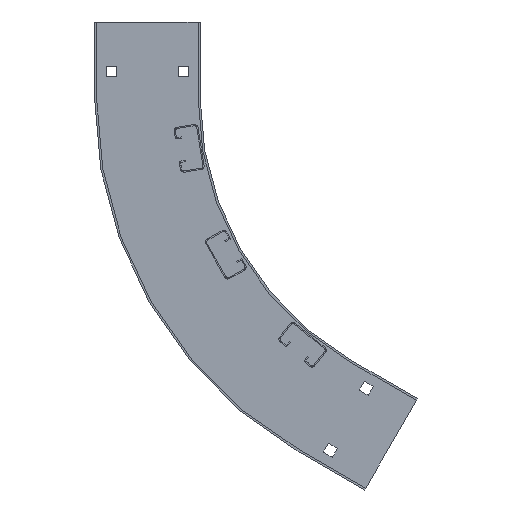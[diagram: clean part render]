
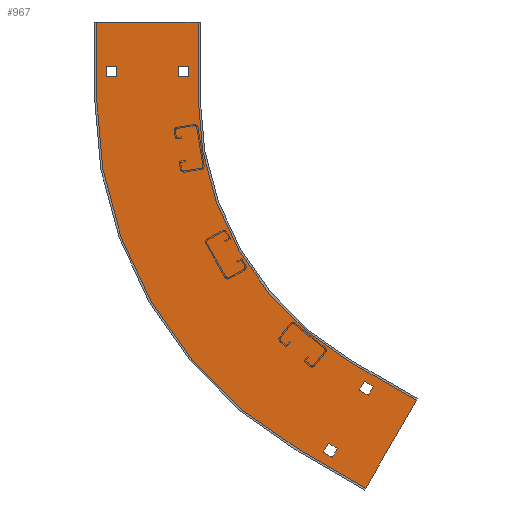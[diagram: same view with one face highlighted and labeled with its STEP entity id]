
A CAD part, left-side view. The second image highlights one B-rep face of the part: STEP entity #967.
In plain terms, the highlighted planar face has unit normal (-1, 0, 0) as drawn and (1, 0, 0) by its records, which use the part's own axes.
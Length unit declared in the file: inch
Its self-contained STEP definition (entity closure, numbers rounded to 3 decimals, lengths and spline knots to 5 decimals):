
#9=DIRECTION('',(0.,1.,0.));
#10=VECTOR('',#9,4.015);
#11=CARTESIAN_POINT('',(0.075,0.08,0.));
#12=LINE('',#11,#10);
#194=DIRECTION('',(0.,0.,1.));
#195=VECTOR('',#194,3.);
#196=CARTESIAN_POINT('',(0.075,4.095,0.));
#197=LINE('',#196,#195);
#198=DIRECTION('',(0.,0.,1.));
#199=VECTOR('',#198,3.);
#200=CARTESIAN_POINT('',(0.075,0.08,0.));
#201=LINE('',#200,#199);
#202=CARTESIAN_POINT('',(0.075,-12.,3.));
#203=DIRECTION('',(1.,0.,0.));
#204=DIRECTION('',(0.,1.,0.));
#205=AXIS2_PLACEMENT_3D('',#202,#203,#204);
#207=DIRECTION('',(0.,-0.866,0.5));
#208=VECTOR('',#207,3.);
#209=CARTESIAN_POINT('',(0.075,-5.96,13.46159));
#210=LINE('',#209,#208);
#211=DIRECTION('',(0.,0.,-1.));
#212=VECTOR('',#211,0.41);
#213=CARTESIAN_POINT('',(0.075,0.455,2.165));
#214=LINE('',#213,#212);
#215=DIRECTION('',(0.,1.,0.));
#216=VECTOR('',#215,0.41);
#217=CARTESIAN_POINT('',(0.075,0.455,1.755));
#218=LINE('',#217,#216);
#219=DIRECTION('',(0.,0.,1.));
#220=VECTOR('',#219,0.41);
#221=CARTESIAN_POINT('',(0.075,0.865,1.755));
#222=LINE('',#221,#220);
#223=DIRECTION('',(0.,-1.,0.));
#224=VECTOR('',#223,0.41);
#225=CARTESIAN_POINT('',(0.075,0.865,2.165));
#226=LINE('',#225,#224);
#227=DIRECTION('',(0.,0.,-1.));
#228=VECTOR('',#227,0.41);
#229=CARTESIAN_POINT('',(0.075,3.29,2.165));
#230=LINE('',#229,#228);
#231=DIRECTION('',(0.,1.,0.));
#232=VECTOR('',#231,0.41);
#233=CARTESIAN_POINT('',(0.075,3.29,1.755));
#234=LINE('',#233,#232);
#235=DIRECTION('',(0.,0.,1.));
#236=VECTOR('',#235,0.41);
#237=CARTESIAN_POINT('',(0.075,3.7,1.755));
#238=LINE('',#237,#236);
#239=DIRECTION('',(0.,-1.,0.));
#240=VECTOR('',#239,0.41);
#241=CARTESIAN_POINT('',(0.075,3.7,2.165));
#242=LINE('',#241,#240);
#243=DIRECTION('',(0.,0.866,-0.5));
#244=VECTOR('',#243,0.41);
#245=CARTESIAN_POINT('',(0.075,-6.8507,14.40885));
#246=LINE('',#245,#244);
#247=DIRECTION('',(0.,0.5,0.866));
#248=VECTOR('',#247,0.41);
#249=CARTESIAN_POINT('',(0.075,-6.49563,14.20385));
#250=LINE('',#249,#248);
#251=DIRECTION('',(0.,-0.866,0.5));
#252=VECTOR('',#251,0.41);
#253=CARTESIAN_POINT('',(0.075,-6.29063,14.55892));
#254=LINE('',#253,#252);
#255=DIRECTION('',(0.,-0.5,-0.866));
#256=VECTOR('',#255,0.41);
#257=CARTESIAN_POINT('',(0.075,-6.6457,14.76392));
#258=LINE('',#257,#256);
#259=DIRECTION('',(0.,0.866,-0.5));
#260=VECTOR('',#259,0.41);
#261=CARTESIAN_POINT('',(0.075,-5.4332,16.86403));
#262=LINE('',#261,#260);
#263=DIRECTION('',(0.,0.5,0.866));
#264=VECTOR('',#263,0.41);
#265=CARTESIAN_POINT('',(0.075,-5.07813,16.65903));
#266=LINE('',#265,#264);
#267=DIRECTION('',(0.,-0.866,0.5));
#268=VECTOR('',#267,0.41);
#269=CARTESIAN_POINT('',(0.075,-4.87313,17.0141));
#270=LINE('',#269,#268);
#271=DIRECTION('',(0.,-0.5,-0.866));
#272=VECTOR('',#271,0.41);
#273=CARTESIAN_POINT('',(0.075,-5.2282,17.2191));
#274=LINE('',#273,#272);
#336=DIRECTION('',(0.,0.5,0.866));
#337=VECTOR('',#336,4.015);
#338=CARTESIAN_POINT('',(0.075,-8.55808,14.96159));
#339=LINE('',#338,#337);
#416=DIRECTION('',(0.,-0.866,0.5));
#417=VECTOR('',#416,3.);
#418=CARTESIAN_POINT('',(0.075,-3.9525,16.93868));
#419=LINE('',#418,#417);
#424=CARTESIAN_POINT('',(0.075,-12.,3.));
#425=DIRECTION('',(1.,0.,0.));
#426=DIRECTION('',(0.,1.,0.));
#427=AXIS2_PLACEMENT_3D('',#424,#425,#426);
#497=CARTESIAN_POINT('',(0.075,0.08,0.));
#498=VERTEX_POINT('',#497);
#499=CARTESIAN_POINT('',(0.075,4.095,0.));
#500=VERTEX_POINT('',#499);
#518=CARTESIAN_POINT('',(0.075,0.08,3.));
#520=VERTEX_POINT('',#518);
#521=CARTESIAN_POINT('',(0.075,4.095,3.));
#523=VERTEX_POINT('',#521);
#542=CARTESIAN_POINT('',(0.075,-5.96,13.46159));
#544=VERTEX_POINT('',#542);
#545=CARTESIAN_POINT('',(0.075,-3.9525,16.93868));
#547=VERTEX_POINT('',#545);
#569=CARTESIAN_POINT('',(0.075,-8.55808,14.96159));
#570=VERTEX_POINT('',#569);
#571=CARTESIAN_POINT('',(0.075,-6.55058,18.43868));
#572=VERTEX_POINT('',#571);
#589=CARTESIAN_POINT('',(0.075,0.455,2.165));
#590=CARTESIAN_POINT('',(0.075,0.455,1.755));
#591=VERTEX_POINT('',#589);
#592=VERTEX_POINT('',#590);
#593=CARTESIAN_POINT('',(0.075,0.865,1.755));
#594=VERTEX_POINT('',#593);
#595=CARTESIAN_POINT('',(0.075,0.865,2.165));
#596=VERTEX_POINT('',#595);
#597=CARTESIAN_POINT('',(0.075,3.29,2.165));
#598=CARTESIAN_POINT('',(0.075,3.29,1.755));
#599=VERTEX_POINT('',#597);
#600=VERTEX_POINT('',#598);
#601=CARTESIAN_POINT('',(0.075,3.7,1.755));
#602=VERTEX_POINT('',#601);
#603=CARTESIAN_POINT('',(0.075,3.7,2.165));
#604=VERTEX_POINT('',#603);
#621=CARTESIAN_POINT('',(0.075,-6.8507,14.40885));
#622=CARTESIAN_POINT('',(0.075,-6.49563,14.20385));
#623=VERTEX_POINT('',#621);
#624=VERTEX_POINT('',#622);
#625=CARTESIAN_POINT('',(0.075,-6.29063,14.55892));
#626=VERTEX_POINT('',#625);
#627=CARTESIAN_POINT('',(0.075,-6.6457,14.76392));
#628=VERTEX_POINT('',#627);
#629=CARTESIAN_POINT('',(0.075,-5.4332,16.86403));
#630=CARTESIAN_POINT('',(0.075,-5.07813,16.65903));
#631=VERTEX_POINT('',#629);
#632=VERTEX_POINT('',#630);
#633=CARTESIAN_POINT('',(0.075,-4.87313,17.0141));
#634=VERTEX_POINT('',#633);
#635=CARTESIAN_POINT('',(0.075,-5.2282,17.2191));
#636=VERTEX_POINT('',#635);
#906=CARTESIAN_POINT('',(0.075,0.08,0.));
#907=DIRECTION('',(1.,0.,0.));
#908=DIRECTION('',(0.,1.,0.));
#909=AXIS2_PLACEMENT_3D('',#906,#907,#908);
#910=PLANE('',#909);
#911=ORIENTED_EDGE('',*,*,#662,.F.);
#913=ORIENTED_EDGE('',*,*,#912,.T.);
#915=ORIENTED_EDGE('',*,*,#914,.T.);
#917=ORIENTED_EDGE('',*,*,#916,.T.);
#919=ORIENTED_EDGE('',*,*,#918,.T.);
#921=ORIENTED_EDGE('',*,*,#920,.F.);
#923=ORIENTED_EDGE('',*,*,#922,.F.);
#924=ORIENTED_EDGE('',*,*,#898,.F.);
#925=EDGE_LOOP('',(#911,#913,#915,#917,#919,#921,#923,#924));
#926=FACE_OUTER_BOUND('',#925,.F.);
#928=ORIENTED_EDGE('',*,*,#927,.T.);
#930=ORIENTED_EDGE('',*,*,#929,.T.);
#932=ORIENTED_EDGE('',*,*,#931,.T.);
#934=ORIENTED_EDGE('',*,*,#933,.T.);
#935=EDGE_LOOP('',(#928,#930,#932,#934));
#936=FACE_BOUND('',#935,.F.);
#938=ORIENTED_EDGE('',*,*,#937,.T.);
#940=ORIENTED_EDGE('',*,*,#939,.T.);
#942=ORIENTED_EDGE('',*,*,#941,.T.);
#944=ORIENTED_EDGE('',*,*,#943,.T.);
#945=EDGE_LOOP('',(#938,#940,#942,#944));
#946=FACE_BOUND('',#945,.F.);
#948=ORIENTED_EDGE('',*,*,#947,.T.);
#950=ORIENTED_EDGE('',*,*,#949,.T.);
#952=ORIENTED_EDGE('',*,*,#951,.T.);
#954=ORIENTED_EDGE('',*,*,#953,.T.);
#955=EDGE_LOOP('',(#948,#950,#952,#954));
#956=FACE_BOUND('',#955,.F.);
#958=ORIENTED_EDGE('',*,*,#957,.T.);
#960=ORIENTED_EDGE('',*,*,#959,.T.);
#962=ORIENTED_EDGE('',*,*,#961,.T.);
#964=ORIENTED_EDGE('',*,*,#963,.T.);
#965=EDGE_LOOP('',(#958,#960,#962,#964));
#966=FACE_BOUND('',#965,.F.);
#967=ADVANCED_FACE('',(#926,#936,#946,#956,#966),#910,.T.);
#206=CIRCLE('',#205,12.08);
#428=CIRCLE('',#427,16.095);
#662=EDGE_CURVE('',#498,#500,#12,.T.);
#898=EDGE_CURVE('',#500,#523,#197,.T.);
#912=EDGE_CURVE('',#498,#520,#201,.T.);
#914=EDGE_CURVE('',#520,#544,#206,.T.);
#916=EDGE_CURVE('',#544,#570,#210,.T.);
#918=EDGE_CURVE('',#570,#572,#339,.T.);
#920=EDGE_CURVE('',#547,#572,#419,.T.);
#922=EDGE_CURVE('',#523,#547,#428,.T.);
#927=EDGE_CURVE('',#591,#592,#214,.T.);
#929=EDGE_CURVE('',#592,#594,#218,.T.);
#931=EDGE_CURVE('',#594,#596,#222,.T.);
#933=EDGE_CURVE('',#596,#591,#226,.T.);
#937=EDGE_CURVE('',#599,#600,#230,.T.);
#939=EDGE_CURVE('',#600,#602,#234,.T.);
#941=EDGE_CURVE('',#602,#604,#238,.T.);
#943=EDGE_CURVE('',#604,#599,#242,.T.);
#947=EDGE_CURVE('',#623,#624,#246,.T.);
#949=EDGE_CURVE('',#624,#626,#250,.T.);
#951=EDGE_CURVE('',#626,#628,#254,.T.);
#953=EDGE_CURVE('',#628,#623,#258,.T.);
#957=EDGE_CURVE('',#631,#632,#262,.T.);
#959=EDGE_CURVE('',#632,#634,#266,.T.);
#961=EDGE_CURVE('',#634,#636,#270,.T.);
#963=EDGE_CURVE('',#636,#631,#274,.T.);
